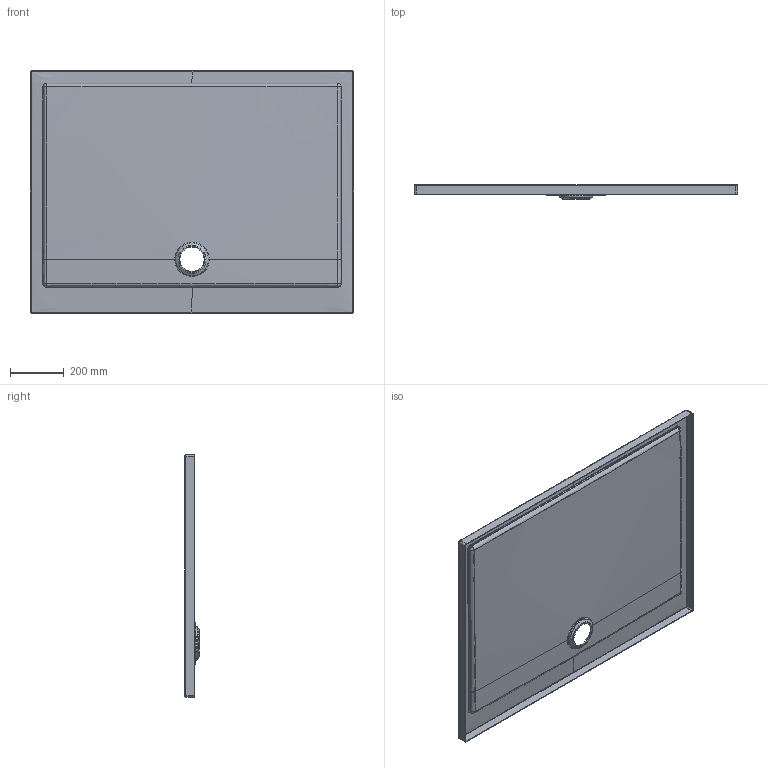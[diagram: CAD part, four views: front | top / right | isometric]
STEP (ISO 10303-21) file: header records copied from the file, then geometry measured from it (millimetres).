
FILE_DESCRIPTION((''),'2;1');
FILE_NAME('SUBWAY_SHOWERTRAY','2024-05-15T11:59:59',('hegemanc'),('Villeroy & Boch Wellness bv'),'CREO PARAMETRIC BY PTC INC, 2022414','CREO PARAMETRIC BY PTC INC, 2022414','');
FILE_SCHEMA(('AUTOMOTIVE_DESIGN { 1 0 10303 214 1 1 1 1 }'));
Length unit declared in the file: millimetre
Products named in the file (1): SUBWAY_SHOWERTRAY
Bounding box: 1200 x 52.96 x 900 mm (x, y, z)
Volume: 3808546.1 mm3; surface area: 2552729.7 mm2
Topology: 1 solids, 1 shells, 125 faces, 286 edges, 172 vertices
Faces by surface type: bspline 56, cylinder 22, plane 19, torus 12, sphere 8, cone 8
Entity records: 18699 total; most frequent: CARTESIAN_POINT 14489, COLOUR_RGB 1450, ORIENTED_EDGE 556, DIRECTION 434, EDGE_CURVE 278, AXIS2_PLACEMENT_3D 186, VERTEX_POINT 156, EDGE_LOOP 128
